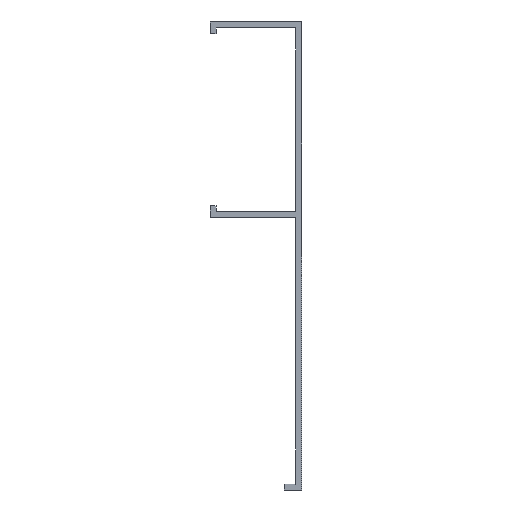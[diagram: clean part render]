
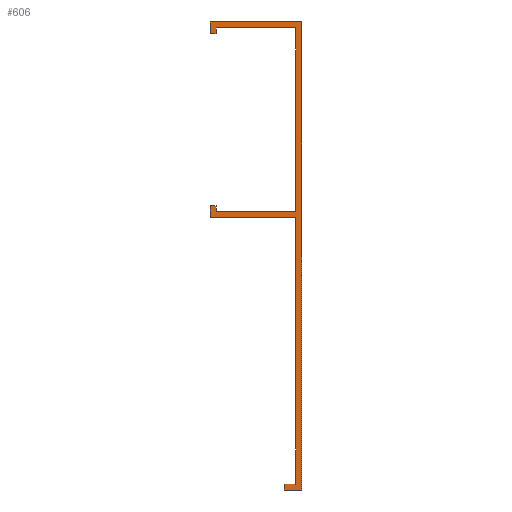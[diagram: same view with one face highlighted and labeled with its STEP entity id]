
A CAD part, left-side view. The second image highlights one B-rep face of the part: STEP entity #606.
In plain terms, the highlighted planar face has unit normal (-1, 0, 0).
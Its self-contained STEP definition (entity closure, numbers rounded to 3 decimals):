
#606=ADVANCED_FACE('',(#1076),#1077,.F.);
#1076=FACE_OUTER_BOUND('',#1672,.T.);
#1077=PLANE('',#1673);
#1672=EDGE_LOOP('',(#2346,#2347,#2348,#2349,#2350,#2351,#2352,#2353,#2354,#2355,#2356,#2357,#2358,#2359,#2360,#2361,#2362,#2363,#2364,#2365));
#1673=AXIS2_PLACEMENT_3D('',#2366,#2367,#2368);
#2346=ORIENTED_EDGE('',*,*,#2812,.T.);
#2347=ORIENTED_EDGE('',*,*,#2815,.T.);
#2348=ORIENTED_EDGE('',*,*,#2818,.T.);
#2349=ORIENTED_EDGE('',*,*,#2821,.T.);
#2350=ORIENTED_EDGE('',*,*,#2824,.T.);
#2351=ORIENTED_EDGE('',*,*,#2827,.T.);
#2352=ORIENTED_EDGE('',*,*,#2830,.T.);
#2353=ORIENTED_EDGE('',*,*,#2833,.T.);
#2354=ORIENTED_EDGE('',*,*,#2835,.T.);
#2355=ORIENTED_EDGE('',*,*,#2793,.T.);
#2356=ORIENTED_EDGE('',*,*,#2797,.T.);
#2357=ORIENTED_EDGE('',*,*,#2799,.T.);
#2358=ORIENTED_EDGE('',*,*,#2727,.T.);
#2359=ORIENTED_EDGE('',*,*,#2723,.T.);
#2360=ORIENTED_EDGE('',*,*,#2710,.T.);
#2361=ORIENTED_EDGE('',*,*,#2725,.F.);
#2362=ORIENTED_EDGE('',*,*,#2681,.T.);
#2363=ORIENTED_EDGE('',*,*,#2803,.T.);
#2364=ORIENTED_EDGE('',*,*,#2806,.T.);
#2365=ORIENTED_EDGE('',*,*,#2809,.T.);
#2366=CARTESIAN_POINT('',(0.0,-12.134,-26.482));
#2367=DIRECTION('',(1.0,0.0,0.0));
#2368=DIRECTION('',(0.0,0.0,-1.0));
#2681=EDGE_CURVE('',#3085,#3112,#3114,.T.);
#2710=EDGE_CURVE('',#3158,#3156,#3159,.T.);
#2723=EDGE_CURVE('',#3173,#3158,#3176,.T.);
#2725=EDGE_CURVE('',#3085,#3156,#3178,.T.);
#2727=EDGE_CURVE('',#3180,#3173,#3181,.T.);
#2793=EDGE_CURVE('',#3280,#3278,#3281,.T.);
#2797=EDGE_CURVE('',#3278,#3284,#3286,.T.);
#2799=EDGE_CURVE('',#3284,#3180,#3288,.T.);
#2803=EDGE_CURVE('',#3112,#3291,#3293,.T.);
#2806=EDGE_CURVE('',#3291,#3295,#3297,.T.);
#2809=EDGE_CURVE('',#3295,#3299,#3301,.T.);
#2812=EDGE_CURVE('',#3299,#3303,#3305,.T.);
#2815=EDGE_CURVE('',#3303,#3307,#3309,.T.);
#2818=EDGE_CURVE('',#3307,#3311,#3313,.T.);
#2821=EDGE_CURVE('',#3311,#3315,#3317,.T.);
#2824=EDGE_CURVE('',#3315,#3319,#3321,.T.);
#2827=EDGE_CURVE('',#3319,#3323,#3325,.T.);
#2830=EDGE_CURVE('',#3323,#3327,#3329,.T.);
#2833=EDGE_CURVE('',#3327,#3331,#3333,.T.);
#2835=EDGE_CURVE('',#3331,#3280,#3335,.T.);
#3085=VERTEX_POINT('',#3439);
#3112=VERTEX_POINT('',#3472);
#3114=LINE('',#3475,#3476);
#3156=VERTEX_POINT('',#3530);
#3158=VERTEX_POINT('',#3532);
#3159=LINE('',#3533,#3534);
#3173=VERTEX_POINT('',#3551);
#3176=LINE('',#3555,#3556);
#3178=LINE('',#3558,#3559);
#3180=VERTEX_POINT('',#3561);
#3181=LINE('',#3562,#3563);
#3278=VERTEX_POINT('',#3695);
#3280=VERTEX_POINT('',#3698);
#3281=LINE('',#3699,#3700);
#3284=VERTEX_POINT('',#3704);
#3286=LINE('',#3707,#3708);
#3288=LINE('',#3710,#3711);
#3291=VERTEX_POINT('',#3714);
#3293=LINE('',#3717,#3718);
#3295=VERTEX_POINT('',#3720);
#3297=LINE('',#3723,#3724);
#3299=VERTEX_POINT('',#3726);
#3301=LINE('',#3729,#3730);
#3303=VERTEX_POINT('',#3732);
#3305=LINE('',#3735,#3736);
#3307=VERTEX_POINT('',#3738);
#3309=LINE('',#3741,#3742);
#3311=VERTEX_POINT('',#3744);
#3313=LINE('',#3747,#3748);
#3315=VERTEX_POINT('',#3750);
#3317=LINE('',#3753,#3754);
#3319=VERTEX_POINT('',#3756);
#3321=LINE('',#3759,#3760);
#3323=VERTEX_POINT('',#3762);
#3325=LINE('',#3765,#3766);
#3327=VERTEX_POINT('',#3768);
#3329=LINE('',#3771,#3772);
#3331=VERTEX_POINT('',#3774);
#3333=LINE('',#3777,#3778);
#3335=LINE('',#3780,#3781);
#3439=CARTESIAN_POINT('',(0.,-14.495,-78.0));
#3472=CARTESIAN_POINT('',(0.0,-12.5,-78.0));
#3475=CARTESIAN_POINT('',(0.0,-14.5,-78.0));
#3476=VECTOR('',#3863,1.0);
#3530=CARTESIAN_POINT('',(0.,-14.495,-77.995));
#3532=CARTESIAN_POINT('',(0.,-14.497,-77.995));
#3533=CARTESIAN_POINT('',(0.,-14.497,-77.995));
#3534=VECTOR('',#3903,1.0);
#3551=CARTESIAN_POINT('',(0.,-14.497,-78.0));
#3555=CARTESIAN_POINT('',(0.,-14.497,-78.0));
#3556=VECTOR('',#3920,1.0);
#3558=CARTESIAN_POINT('',(0.,-14.495,-78.0));
#3559=VECTOR('',#3921,1.0);
#3561=CARTESIAN_POINT('',(0.0,-14.5,-78.0));
#3562=CARTESIAN_POINT('',(0.0,-14.5,-78.0));
#3563=VECTOR('',#3922,1.0);
#3695=CARTESIAN_POINT('',(0.0,0.0,-33.));
#3698=CARTESIAN_POINT('',(0.0,0.0,-31.));
#3699=CARTESIAN_POINT('',(0.0,0.0,-31.));
#3700=VECTOR('',#3995,1.0);
#3704=CARTESIAN_POINT('',(0.0,-14.5,-33.));
#3707=CARTESIAN_POINT('',(0.0,0.0,-33.));
#3708=VECTOR('',#3998,1.0);
#3710=CARTESIAN_POINT('',(0.0,-14.5,-32.5));
#3711=VECTOR('',#3999,1.0);
#3714=CARTESIAN_POINT('',(0.0,-12.5,-79.0));
#3717=CARTESIAN_POINT('',(0.0,-12.5,-78.0));
#3718=VECTOR('',#4001,1.0);
#3720=CARTESIAN_POINT('',(0.0,-15.5,-79.0));
#3723=CARTESIAN_POINT('',(0.0,-12.5,-79.0));
#3724=VECTOR('',#4003,1.0);
#3726=CARTESIAN_POINT('',(0.0,-15.5,0.0));
#3729=CARTESIAN_POINT('',(0.0,-15.5,-61.0));
#3730=VECTOR('',#4005,1.0);
#3732=CARTESIAN_POINT('',(0.0,0.0,0.0));
#3735=CARTESIAN_POINT('',(0.0,-15.5,0.0));
#3736=VECTOR('',#4007,1.0);
#3738=CARTESIAN_POINT('',(0.0,0.0,-2.0));
#3741=CARTESIAN_POINT('',(0.0,0.0,0.0));
#3742=VECTOR('',#4009,1.0);
#3744=CARTESIAN_POINT('',(0.0,-1.0,-2.0));
#3747=CARTESIAN_POINT('',(0.0,0.0,-2.0));
#3748=VECTOR('',#4011,1.0);
#3750=CARTESIAN_POINT('',(0.0,-1.0,-1.0));
#3753=CARTESIAN_POINT('',(0.0,-1.0,-2.0));
#3754=VECTOR('',#4013,1.0);
#3756=CARTESIAN_POINT('',(0.0,-14.5,-1.0));
#3759=CARTESIAN_POINT('',(0.0,-1.0,-1.0));
#3760=VECTOR('',#4015,1.0);
#3762=CARTESIAN_POINT('',(0.0,-14.5,-32.));
#3765=CARTESIAN_POINT('',(0.0,-14.5,-1.0));
#3766=VECTOR('',#4017,1.0);
#3768=CARTESIAN_POINT('',(0.0,-1.0,-32.));
#3771=CARTESIAN_POINT('',(0.0,-14.5,-32.));
#3772=VECTOR('',#4019,1.0);
#3774=CARTESIAN_POINT('',(0.0,-1.0,-31.));
#3777=CARTESIAN_POINT('',(0.0,-1.0,-32.));
#3778=VECTOR('',#4021,1.0);
#3780=CARTESIAN_POINT('',(0.0,-1.0,-31.));
#3781=VECTOR('',#4022,1.0);
#3863=DIRECTION('',(0.0,1.0,0.0));
#3903=DIRECTION('',(0.0,1.0,0.));
#3920=DIRECTION('',(0.0,0.,1.0));
#3921=DIRECTION('',(0.0,0.,1.0));
#3922=DIRECTION('',(0.0,1.0,0.0));
#3995=DIRECTION('',(0.0,0.0,-1.0));
#3998=DIRECTION('',(0.0,-1.0,0.0));
#3999=DIRECTION('',(0.0,0.0,-1.0));
#4001=DIRECTION('',(0.0,0.0,-1.0));
#4003=DIRECTION('',(0.0,-1.0,0.0));
#4005=DIRECTION('',(0.0,0.0,1.0));
#4007=DIRECTION('',(0.0,1.0,0.0));
#4009=DIRECTION('',(0.0,0.0,-1.0));
#4011=DIRECTION('',(0.0,-1.0,0.0));
#4013=DIRECTION('',(0.0,0.0,1.0));
#4015=DIRECTION('',(0.0,-1.0,0.0));
#4017=DIRECTION('',(0.0,0.0,-1.0));
#4019=DIRECTION('',(0.0,1.0,0.0));
#4021=DIRECTION('',(0.0,0.0,1.0));
#4022=DIRECTION('',(0.0,1.0,0.0));
